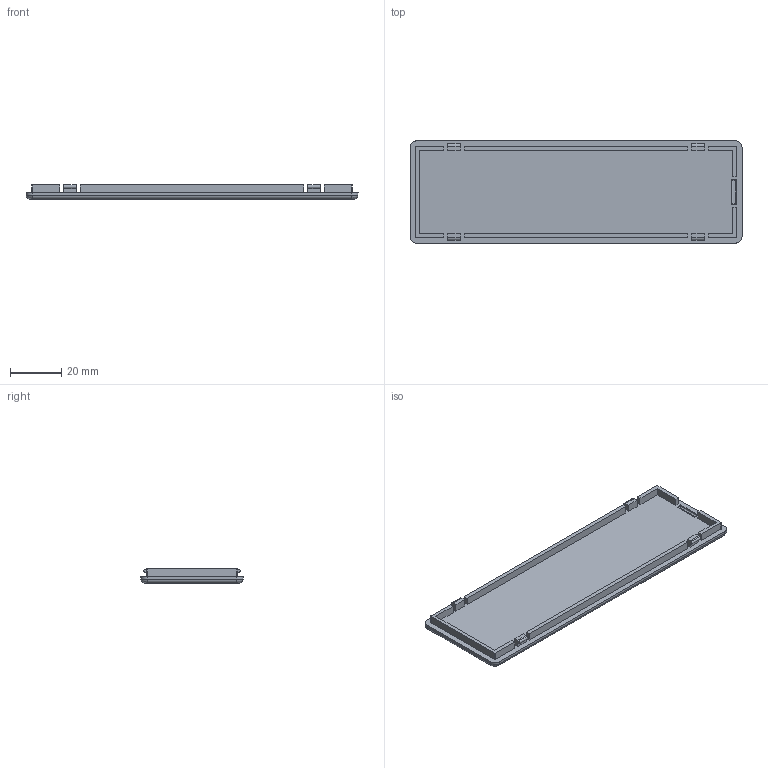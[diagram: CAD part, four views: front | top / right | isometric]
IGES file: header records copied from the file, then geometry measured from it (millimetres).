
Global section: file name: No Iges File Name specified; native system: Autodesk Inventor 2011; preprocessor: AutoDesk Inventor Iges Exporter R2011; author: tcook; date: 20101025.113505; units: inch
Bounding box: 129.54 x 39.88 x 5.59 mm (x, y, z)
Volume: 14286.8 mm3; surface area: 12854.5 mm2
Topology: 1 solids, 1 shells, 96 faces, 240 edges, 156 vertices
Faces by surface type: plane 68, bspline 14, cylinder 10, revolution 4
